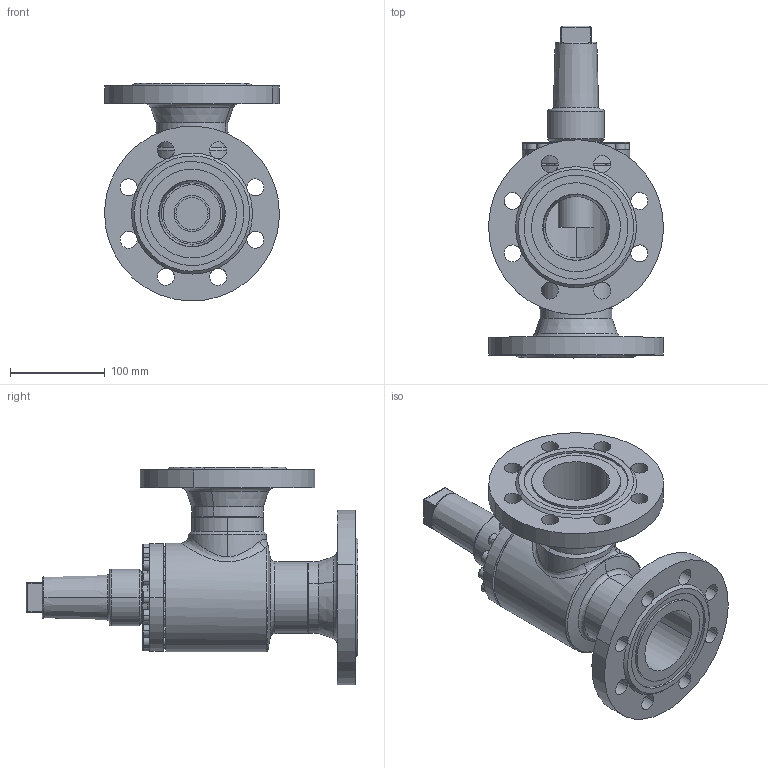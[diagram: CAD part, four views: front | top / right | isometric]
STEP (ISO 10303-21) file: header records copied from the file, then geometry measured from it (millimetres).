
FILE_DESCRIPTION (( 'STEP AP214' ), '1' );
FILE_NAME ('AVR26420D17-DN065_DIN-FL-N_PS40.STEP', '2006-04-27T13:49:19', ( 'Herr Grams' ), ( 'AWP GmbH' ), 'SwSTEP 2.0', 'SolidWorks 2002296', '' );
FILE_SCHEMA (( 'AUTOMOTIVE_DESIGN' ));
Length unit declared in the file: millimetre
Products named in the file (10): AVR26420D17-DN065_DIN-FL-N_PS40; AVR26300K17_Deck+Schr-DN65_Standard; Deckel26300K17-DN65_Standard; Zylinderschraube-DIN912_M 8x 25; Gehäuse-kpl16420-DN065_DIN_PS40_Standard; Gehäuse16400-DN065_Standard; Flansch-DIN-Nut_PS40_DIN-Flansch-DN065_PS40-Nut; bead-DN065-4_Standard; bead-DN065-3_Standard; Kappe16402_DN040-65_Standard
Assembly tree (25 placements, depth 3):
  AVR26420D17-DN065_DIN-FL-N_PS40
    AVR26300K17_Deck+Schr-DN65_Standard
      Zylinderschraube-DIN912_M 8x 25  x16
      Deckel26300K17-DN65_Standard
    Kappe16402_DN040-65_Standard
    Gehäuse-kpl16420-DN065_DIN_PS40_Standard
      Gehäuse16400-DN065_Standard
      Flansch-DIN-Nut_PS40_DIN-Flansch-DN065_PS40-Nut  x2
      bead-DN065-3_Standard
      bead-DN065-4_Standard
Bounding box: 184.82 x 351 x 230.41 mm (x, y, z)
Volume: 1829073 mm3; surface area: 380062.2 mm2
Topology: 23 solids, 23 shells, 534 faces, 1236 edges, 786 vertices
Faces by surface type: plane 207, cylinder 206, cone 60, torus 51, bspline 10
Entity records: 18817 total; most frequent: CARTESIAN_POINT 12507, DIRECTION 1266, ORIENTED_EDGE 1104, EDGE_CURVE 552, AXIS2_PLACEMENT_3D 544, VERTEX_POINT 352, CIRCLE 298, EDGE_LOOP 296
